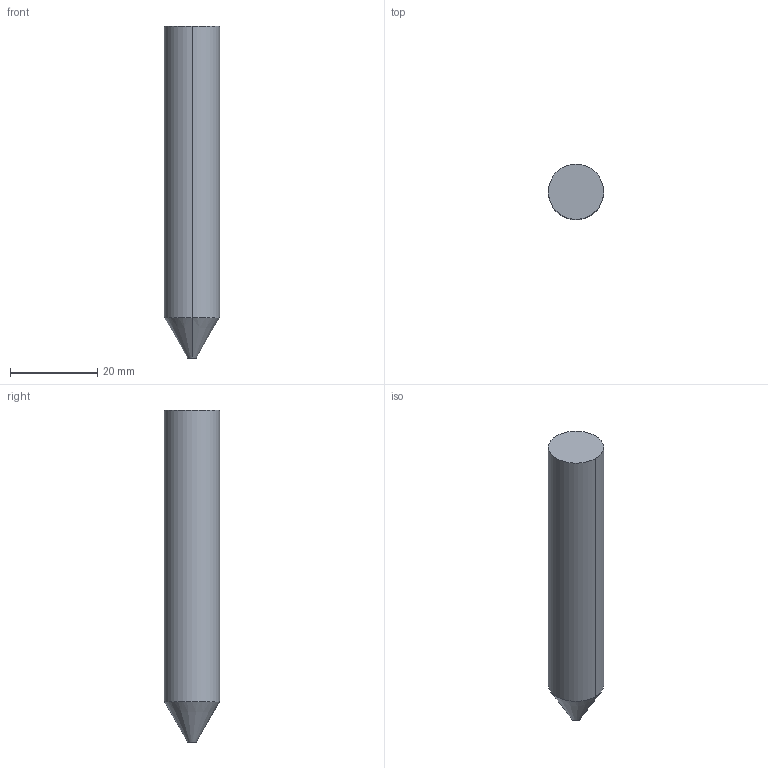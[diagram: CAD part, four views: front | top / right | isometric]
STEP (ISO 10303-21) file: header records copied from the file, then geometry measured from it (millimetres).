
FILE_DESCRIPTION((' '),'2;1');
FILE_NAME( '3HC050001B.stp', '2026-01-21T09:08:27', (' '), ('--- Datakit www.datakit.com---'), ' Datakit CrossCadWare V2025.4 Sep 19 2025', 'Mastercam 2027', ' ');
FILE_SCHEMA(('AUTOMOTIVE_DESIGN { 1 0 10303 214 1 1 1 1 }'));
Length unit declared in the file: inch
Products named in the file (1): 3HC050001B
Bounding box: 12.7 x 12.7 x 76.2 mm (x, y, z)
Volume: 8945 mm3; surface area: 3048.4 mm2
Topology: 1 solids, 1 shells, 8 faces, 14 edges, 8 vertices
Faces by surface type: cylinder 4, plane 2, cone 2
Entity records: 264 total; most frequent: DIRECTION 48, CARTESIAN_POINT 35, ORIENTED_EDGE 28, AXIS2_PLACEMENT_3D 21, EDGE_CURVE 14, VERTEX_POINT 8, CIRCLE 8, EDGE_LOOP 8
